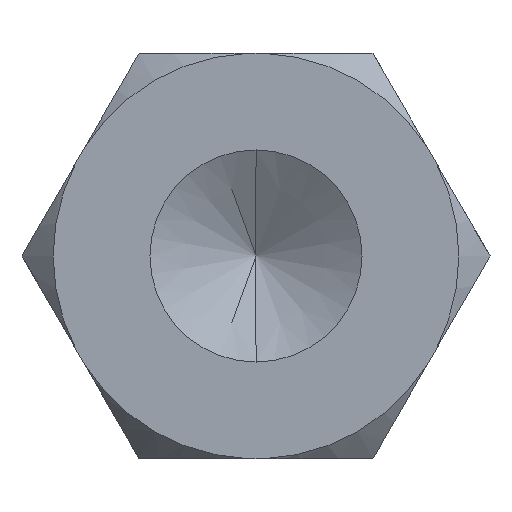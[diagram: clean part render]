
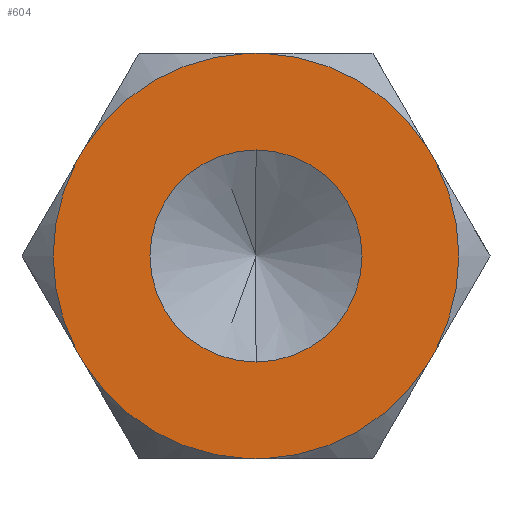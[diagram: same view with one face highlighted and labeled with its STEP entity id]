
A CAD part, front view. The second image highlights one B-rep face of the part: STEP entity #604.
In plain terms, the highlighted planar face has unit normal (0, -1, 0).
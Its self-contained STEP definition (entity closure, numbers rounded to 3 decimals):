
#5 = AXIS2_PLACEMENT_3D ( 'NONE', #440, #902, #913 ) ;
#7 = AXIS2_PLACEMENT_3D ( 'NONE', #241, #606, #874 ) ;
#22 = ORIENTED_EDGE ( 'NONE', *, *, #307, .T. ) ;
#31 = DIRECTION ( 'NONE',  ( 0., -1., 0. ) ) ;
#32 = EDGE_CURVE ( 'NONE', #875, #813, #379, .T. ) ;
#34 = LINE ( 'NONE', #583, #470 ) ;
#58 = ORIENTED_EDGE ( 'NONE', *, *, #479, .T. ) ;
#67 = AXIS2_PLACEMENT_3D ( 'NONE', #795, #949, #239 ) ;
#72 = ORIENTED_EDGE ( 'NONE', *, *, #328, .F. ) ;
#85 = CARTESIAN_POINT ( 'NONE',  ( 0., 0., 0. ) ) ;
#89 = CARTESIAN_POINT ( 'NONE',  ( -3.753, 0., 6.5 ) ) ;
#93 = CARTESIAN_POINT ( 'NONE',  ( 3.753, 0., 6.5 ) ) ;
#97 = AXIS2_PLACEMENT_3D ( 'NONE', #121, #1007, #932 ) ;
#108 = LINE ( 'NONE', #542, #490 ) ;
#121 = CARTESIAN_POINT ( 'NONE',  ( 0., 0., 0. ) ) ;
#151 = ORIENTED_EDGE ( 'NONE', *, *, #1096, .F. ) ;
#162 = VERTEX_POINT ( 'NONE', #419 ) ;
#175 = CARTESIAN_POINT ( 'NONE',  ( 5.764, 0., -3.017 ) ) ;
#192 = CIRCLE ( 'NONE', #549, 6.506 ) ;
#239 = DIRECTION ( 'NONE',  ( 0., 0., -1. ) ) ;
#241 = CARTESIAN_POINT ( 'NONE',  ( 0., 0., 0. ) ) ;
#245 = CARTESIAN_POINT ( 'NONE',  ( -0.269, 0., -6.5 ) ) ;
#249 = CIRCLE ( 'NONE', #901, 6.506 ) ;
#253 = ORIENTED_EDGE ( 'NONE', *, *, #555, .T. ) ;
#263 = EDGE_CURVE ( 'NONE', #1020, #985, #734, .T. ) ;
#269 = VERTEX_POINT ( 'NONE', #821 ) ;
#285 = EDGE_LOOP ( 'NONE', ( #906, #151 ) ) ;
#298 = DIRECTION ( 'NONE',  ( 0., -1., 0. ) ) ;
#307 = EDGE_CURVE ( 'NONE', #784, #1082, #192, .T. ) ;
#319 = VECTOR ( 'NONE', #444, 1000. ) ;
#328 = EDGE_CURVE ( 'NONE', #667, #269, #1010, .T. ) ;
#336 = ORIENTED_EDGE ( 'NONE', *, *, #930, .T. ) ;
#338 = CARTESIAN_POINT ( 'NONE',  ( 0., 0., 0. ) ) ;
#349 = EDGE_LOOP ( 'NONE', ( #929, #22, #865, #561, #1001, #253, #581, #58, #72, #336, #1107, #1092 ) ) ;
#351 = FACE_OUTER_BOUND ( 'NONE', #349, .T. ) ;
#375 = VECTOR ( 'NONE', #725, 1000. ) ;
#379 = CIRCLE ( 'NONE', #1031, 6.506 ) ;
#390 = CARTESIAN_POINT ( 'NONE',  ( -0.269, 0., 6.5 ) ) ;
#394 = CARTESIAN_POINT ( 'NONE',  ( 5.764, 0., 3.017 ) ) ;
#419 = CARTESIAN_POINT ( 'NONE',  ( 0., 0., -3.4 ) ) ;
#429 = CARTESIAN_POINT ( 'NONE',  ( 0., 0., 3.4 ) ) ;
#440 = CARTESIAN_POINT ( 'NONE',  ( 0., 0., 0. ) ) ;
#444 = DIRECTION ( 'NONE',  ( 1., 0., 0. ) ) ;
#449 = CARTESIAN_POINT ( 'NONE',  ( -5.495, 0., -3.483 ) ) ;
#450 = LINE ( 'NONE', #93, #375 ) ;
#452 = AXIS2_PLACEMENT_3D ( 'NONE', #935, #697, #683 ) ;
#465 = VERTEX_POINT ( 'NONE', #878 ) ;
#470 = VECTOR ( 'NONE', #748, 1000. ) ;
#479 = EDGE_CURVE ( 'NONE', #465, #269, #249, .T. ) ;
#484 = VERTEX_POINT ( 'NONE', #429 ) ;
#490 = VECTOR ( 'NONE', #896, 1000. ) ;
#494 = VECTOR ( 'NONE', #754, 1000. ) ;
#502 = EDGE_CURVE ( 'NONE', #162, #484, #808, .T. ) ;
#542 = CARTESIAN_POINT ( 'NONE',  ( -7.506, 0., 0. ) ) ;
#549 = AXIS2_PLACEMENT_3D ( 'NONE', #571, #298, #1023 ) ;
#555 = EDGE_CURVE ( 'NONE', #1020, #959, #623, .T. ) ;
#556 = PLANE ( 'NONE',  #5 ) ;
#560 = CARTESIAN_POINT ( 'NONE',  ( 0., 0., 0. ) ) ;
#561 = ORIENTED_EDGE ( 'NONE', *, *, #863, .T. ) ;
#563 = FACE_BOUND ( 'NONE', #285, .T. ) ;
#564 = CARTESIAN_POINT ( 'NONE',  ( -3.753, 0., -6.5 ) ) ;
#571 = CARTESIAN_POINT ( 'NONE',  ( 0., 0., 0. ) ) ;
#581 = ORIENTED_EDGE ( 'NONE', *, *, #737, .F. ) ;
#583 = CARTESIAN_POINT ( 'NONE',  ( 3.753, 0., -6.5 ) ) ;
#604 = ADVANCED_FACE ( 'NONE', ( #351, #563 ), #556, .F. ) ;
#606 = DIRECTION ( 'NONE',  ( 0., -1., 0. ) ) ;
#610 = EDGE_CURVE ( 'NONE', #622, #1082, #108, .T. ) ;
#617 = DIRECTION ( 'NONE',  ( 0., -1., 0. ) ) ;
#622 = VERTEX_POINT ( 'NONE', #907 ) ;
#623 = CIRCLE ( 'NONE', #1095, 6.506 ) ;
#626 = CIRCLE ( 'NONE', #452, 6.506 ) ;
#639 = EDGE_CURVE ( 'NONE', #875, #1065, #450, .T. ) ;
#642 = CARTESIAN_POINT ( 'NONE',  ( -5.764, 0., -3.017 ) ) ;
#646 = CIRCLE ( 'NONE', #7, 6.506 ) ;
#667 = VERTEX_POINT ( 'NONE', #175 ) ;
#683 = DIRECTION ( 'NONE',  ( 0., 0., 1. ) ) ;
#688 = CIRCLE ( 'NONE', #97, 3.4 ) ;
#696 = EDGE_CURVE ( 'NONE', #784, #813, #972, .T. ) ;
#697 = DIRECTION ( 'NONE',  ( 0., -1., 0. ) ) ;
#700 = DIRECTION ( 'NONE',  ( 0., -1., 0. ) ) ;
#725 = DIRECTION ( 'NONE',  ( 0.5, 0., -0.866 ) ) ;
#734 = LINE ( 'NONE', #564, #1098 ) ;
#737 = EDGE_CURVE ( 'NONE', #465, #959, #34, .T. ) ;
#748 = DIRECTION ( 'NONE',  ( -1., 0., 0. ) ) ;
#754 = DIRECTION ( 'NONE',  ( -0.5, 0., -0.866 ) ) ;
#774 = DIRECTION ( 'NONE',  ( 0., 0., -1. ) ) ;
#775 = CARTESIAN_POINT ( 'NONE',  ( 5.495, 0., 3.483 ) ) ;
#780 = DIRECTION ( 'NONE',  ( 0., 0., 1. ) ) ;
#784 = VERTEX_POINT ( 'NONE', #390 ) ;
#795 = CARTESIAN_POINT ( 'NONE',  ( 0., 0., 0. ) ) ;
#803 = CARTESIAN_POINT ( 'NONE',  ( 0.269, 0., 6.5 ) ) ;
#805 = DIRECTION ( 'NONE',  ( -0.5, 0., 0.866 ) ) ;
#808 = CIRCLE ( 'NONE', #67, 3.4 ) ;
#813 = VERTEX_POINT ( 'NONE', #803 ) ;
#821 = CARTESIAN_POINT ( 'NONE',  ( 5.495, 0., -3.483 ) ) ;
#863 = EDGE_CURVE ( 'NONE', #622, #985, #646, .T. ) ;
#865 = ORIENTED_EDGE ( 'NONE', *, *, #610, .F. ) ;
#874 = DIRECTION ( 'NONE',  ( 0., 0., 1. ) ) ;
#875 = VERTEX_POINT ( 'NONE', #775 ) ;
#878 = CARTESIAN_POINT ( 'NONE',  ( 0.269, 0., -6.5 ) ) ;
#896 = DIRECTION ( 'NONE',  ( 0.5, 0., 0.866 ) ) ;
#901 = AXIS2_PLACEMENT_3D ( 'NONE', #85, #700, #774 ) ;
#902 = DIRECTION ( 'NONE',  ( 0., 1., 0. ) ) ;
#906 = ORIENTED_EDGE ( 'NONE', *, *, #502, .F. ) ;
#907 = CARTESIAN_POINT ( 'NONE',  ( -5.764, 0., 3.017 ) ) ;
#910 = DIRECTION ( 'NONE',  ( 0., 0., 1. ) ) ;
#913 = DIRECTION ( 'NONE',  ( 0., 0., 1. ) ) ;
#919 = CARTESIAN_POINT ( 'NONE',  ( -5.495, 0., 3.483 ) ) ;
#929 = ORIENTED_EDGE ( 'NONE', *, *, #696, .F. ) ;
#930 = EDGE_CURVE ( 'NONE', #667, #1065, #626, .T. ) ;
#932 = DIRECTION ( 'NONE',  ( 0., 0., -1. ) ) ;
#935 = CARTESIAN_POINT ( 'NONE',  ( 0., 0., 0. ) ) ;
#944 = CARTESIAN_POINT ( 'NONE',  ( 7.506, 0., 0. ) ) ;
#949 = DIRECTION ( 'NONE',  ( 0., -1., 0. ) ) ;
#959 = VERTEX_POINT ( 'NONE', #245 ) ;
#972 = LINE ( 'NONE', #89, #319 ) ;
#985 = VERTEX_POINT ( 'NONE', #642 ) ;
#1001 = ORIENTED_EDGE ( 'NONE', *, *, #263, .F. ) ;
#1007 = DIRECTION ( 'NONE',  ( 0., -1., 0. ) ) ;
#1010 = LINE ( 'NONE', #944, #494 ) ;
#1020 = VERTEX_POINT ( 'NONE', #449 ) ;
#1023 = DIRECTION ( 'NONE',  ( 0., 0., 1. ) ) ;
#1031 = AXIS2_PLACEMENT_3D ( 'NONE', #560, #31, #910 ) ;
#1065 = VERTEX_POINT ( 'NONE', #394 ) ;
#1082 = VERTEX_POINT ( 'NONE', #919 ) ;
#1092 = ORIENTED_EDGE ( 'NONE', *, *, #32, .T. ) ;
#1095 = AXIS2_PLACEMENT_3D ( 'NONE', #338, #617, #780 ) ;
#1096 = EDGE_CURVE ( 'NONE', #484, #162, #688, .T. ) ;
#1098 = VECTOR ( 'NONE', #805, 1000. ) ;
#1107 = ORIENTED_EDGE ( 'NONE', *, *, #639, .F. ) ;
